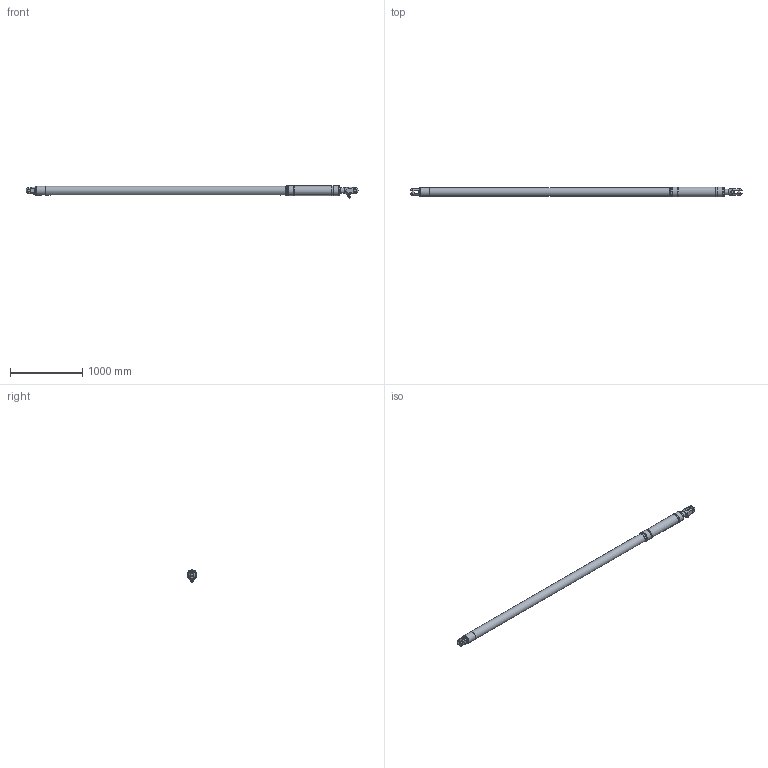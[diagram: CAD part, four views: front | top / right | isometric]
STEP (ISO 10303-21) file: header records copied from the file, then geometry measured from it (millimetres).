
FILE_DESCRIPTION(/* description */ (''),/* implementation_level */ '2;1');
FILE_NAME(/* name */ 'Q:\AA BRAND HYDRAULICS\HYDRAULICS FAMILY DIRECTORY\HYDRAULICS\CYLINDERS\VANGS\ALUMINIUM SINGLE ACTING - STAINLESS ON REQUEST (-0010 To -0150)\VSA-0091-S450-NP-71-L4500\VSA-0091-S450-NP-71-L4500 (Closed).stp',/* time_stamp */ '2018-04-03T11:07:09+01:00',/* author */ ('Lorena'),/* organization */ (''),/* preprocessor_version */ 'ST-DEVELOPER v17',/* originating_system */ 'Autodesk Inventor 2018',/* authorisation */ '');
FILE_SCHEMA (('AUTOMOTIVE_DESIGN { 1 0 10303 214 3 1 1 }'));
Length unit declared in the file: millimetre
Products named in the file (1): VSA-0091-S450-NP-71-L4500 (Closed)
Bounding box: 4584.33 x 136.4 x 172.66 mm (x, y, z)
Volume: 52092570.8 mm3; surface area: 1804276.9 mm2
Topology: 2 solids, 5 shells, 1696 faces, 4537 edges, 2999 vertices
Faces by surface type: plane 968, bspline 571, cylinder 88, cone 61, torus 4, sphere 4
Full cylindrical faces by diameter (mm): 5 x2, 6 x2, 8.1 x1, 9.9 x1, 10 x4, 11 x4, 14.662 x1, 15 x2, 15.662 x1, 16.662 x2, 18 x2, 19 x1, 19.11 x1, 20 x3, 21.4 x3, 27 x1, 28 x1, 31.75 x2, 39.688 x2, 55 x1, 57 x1, 75 x1, 121 x2, 131.8 x1, 133.4 x1, 136.4 x4
Entity records: 60447 total; most frequent: CARTESIAN_POINT 20156, ORIENTED_EDGE 9058, DIRECTION 5902, EDGE_CURVE 4529, VERTEX_POINT 3000, LINE 2894, VECTOR 2894, EDGE_LOOP 1867
